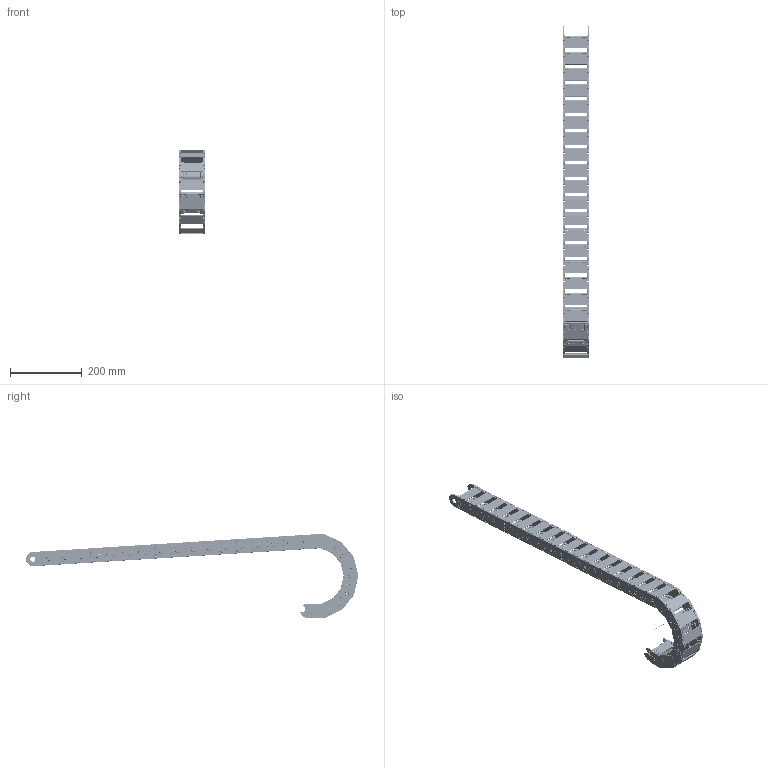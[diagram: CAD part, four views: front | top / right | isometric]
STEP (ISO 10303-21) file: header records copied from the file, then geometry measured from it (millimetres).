
FILE_DESCRIPTION((''),'2;1');
FILE_NAME('C:\Uebbing\PARAMETERKETTEN\KOLIBRI\Kol_40_075_2\KOLIBRI 40_075_2_R100x1035.stp','2011-12-02T15:29:58',('Uebbing'),(''),'Autodesk Inventor 10','Autodesk Inventor 10','');
FILE_SCHEMA(('AUTOMOTIVE_DESIGN { 1 0 10303 214 1 1 1 1 }'));
Length unit declared in the file: millimetre
Products named in the file (5): KOLIBRI 40_075_2_PARAMETRISCH; Achse; Kol_40_075_2; Kol_40_075_2_Klappsteg
Assembly tree (28 placements, depth 3):
  KOLIBRI 40_075_2_PARAMETRISCH
    Achse
    Kol_40_075_2  x25
      Kol_40_075_2
      Kol_40_075_2_Klappsteg
Bounding box: 75 x 928.16 x 235.55 mm (x, y, z)
Volume: 879382.3 mm3; surface area: 600592.3 mm2
Topology: 51 solids, 51 shells, 21253 faces, 56504 edges, 36353 vertices
Faces by surface type: bspline 8875, plane 8102, cylinder 3626, torus 350, sphere 200, cone 100
Full cylindrical faces by diameter (mm): 1 x1, 1.609 x25, 2.825 x25, 3.4 x100, 3.5 x50, 4 x100, 5 x25, 6 x25, 14 x25, 14.1 x25
Entity records: 30572 total; most frequent: CARTESIAN_POINT 10860, ORIENTED_EDGE 4442, DIRECTION 3367, EDGE_CURVE 2221, VERTEX_POINT 1446, VECTOR 1273, LINE 1273, AXIS2_PLACEMENT_3D 1047
